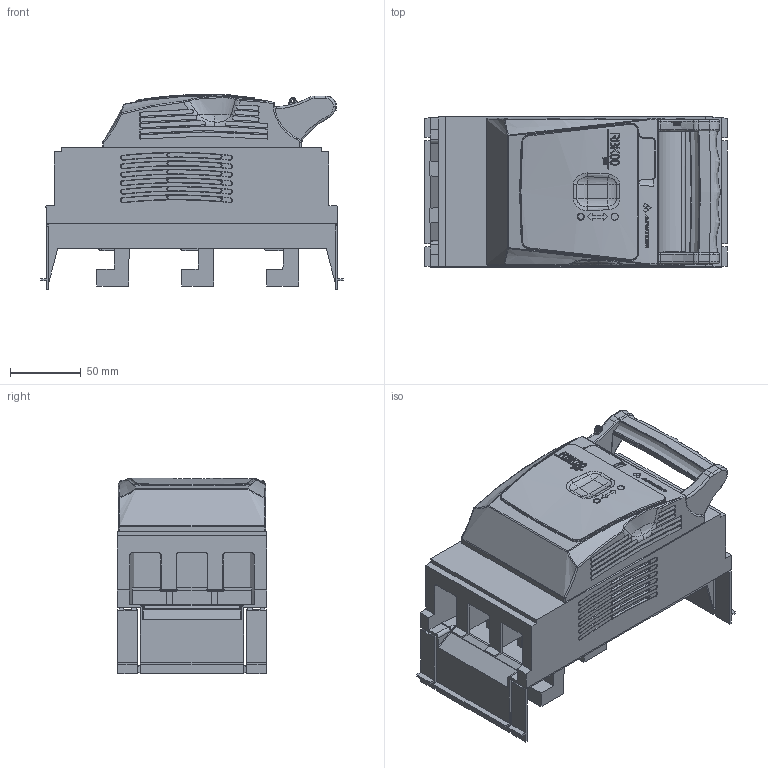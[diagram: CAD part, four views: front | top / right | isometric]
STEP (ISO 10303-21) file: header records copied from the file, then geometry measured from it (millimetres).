
FILE_DESCRIPTION(/* description */ (''),/* implementation_level */ '2;1');
FILE_NAME(/* name */ 'RBK 00 pro-SD-M - 63-823259-141.stp',/* time_stamp */ '2019-03-13T09:53:47+01:00',/* author */ (''),/* organization */ (''),/* preprocessor_version */ 'ST-DEVELOPER v16',/* originating_system */ 'SIEMENS PLM Software NX 10.0',/* authorisation */ '');
FILE_SCHEMA (('AUTOMOTIVE_DESIGN { 1 0 10303 214 3 1 1 1 }'));
Products named in the file (1): 710_09740238alpa
Bounding box: 213.94 x 106 x 138.36 mm (x, y, z)
Volume: 1713538.8 mm3; surface area: 160171.1 mm2
Topology: 1 solids, 7 shells, 1800 faces, 4958 edges, 3183 vertices
Faces by surface type: extrusion 630, plane 452, bspline 291, cylinder 172, torus 152, cone 69, sphere 28, revolution 6
Full cylindrical faces by diameter (mm): 2.2 x1, 8.5 x3
Entity records: 81253 total; most frequent: CARTESIAN_POINT 36705, ORIENTED_EDGE 9782, DIRECTION 8383, EDGE_CURVE 4891, VERTEX_POINT 3178, AXIS2_PLACEMENT_3D 2903, VECTOR 2571, LINE 1941
